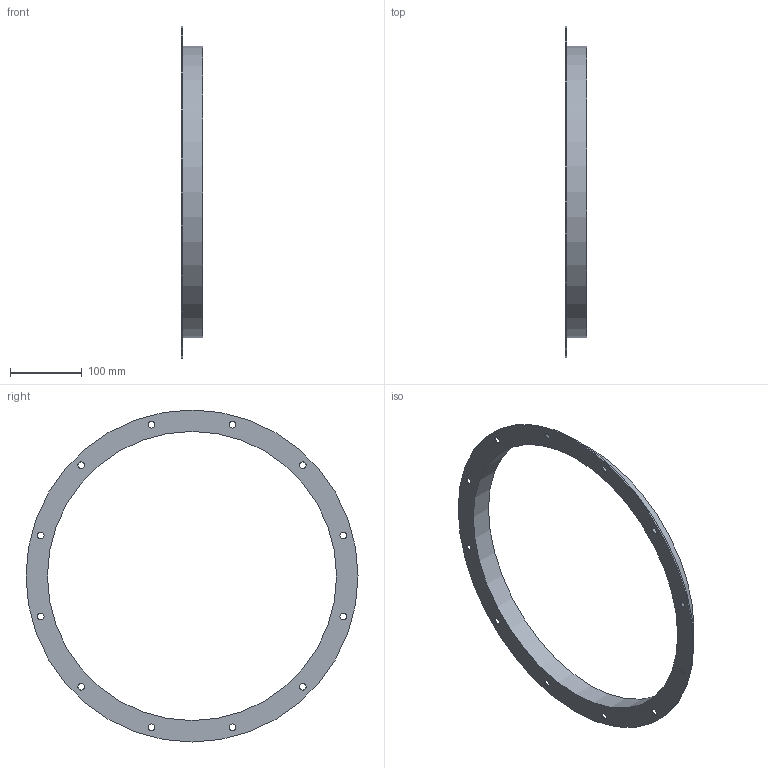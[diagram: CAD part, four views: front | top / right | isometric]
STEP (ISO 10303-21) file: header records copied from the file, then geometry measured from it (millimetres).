
FILE_DESCRIPTION(/* description */ (''),/* implementation_level */ '2;1');
FILE_NAME(/* name */ 'Z:\Output\FR_400-01206-001.stp',/* time_stamp */ '2017-09-25T09:45:36+02:00',/* author */ ('vijayparmar'),/* organization */ (''),/* preprocessor_version */ 'ST-DEVELOPER v16.5',/* originating_system */ 'Autodesk Inventor 2017',/* authorisation */ '');
FILE_SCHEMA (('AUTOMOTIVE_DESIGN { 1 0 10303 214 3 1 1 }'));
Length unit declared in the file: millimetre
Products named in the file (1): FR-1
Bounding box: 30 x 464 x 464 mm (x, y, z)
Volume: 151533.2 mm3; surface area: 157703.2 mm2
Topology: 1 solids, 1 shells, 18 faces, 57 edges, 42 vertices
Faces by surface type: cylinder 15, plane 3
Full cylindrical faces by diameter (mm): 9.5 x12, 404 x1, 408 x1, 464 x1
Entity records: 566 total; most frequent: DIRECTION 98, CARTESIAN_POINT 79, EDGE_LOOP 60, ORIENTED_EDGE 60, AXIS2_PLACEMENT_3D 49, FACE_BOUND 42, CIRCLE 30, VERTEX_POINT 30
